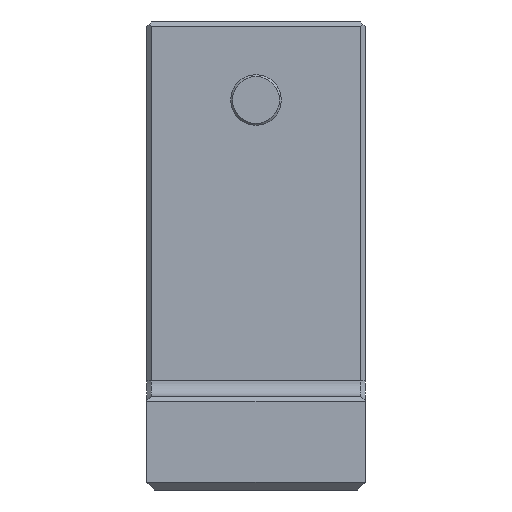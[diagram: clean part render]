
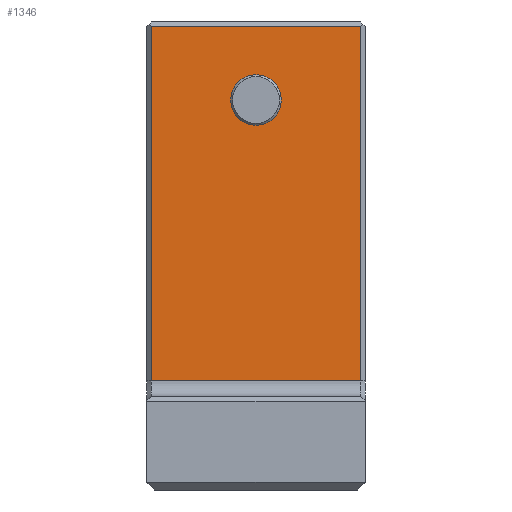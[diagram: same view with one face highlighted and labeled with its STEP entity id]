
A CAD part, front view. The second image highlights one B-rep face of the part: STEP entity #1346.
In plain terms, the highlighted planar face has unit normal (0, -1, 0).
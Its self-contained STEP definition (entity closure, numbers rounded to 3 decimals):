
#1150=CARTESIAN_POINT('',(0.3,-10.0,-9.));
#1151=VERTEX_POINT('',#1150);
#1177=CARTESIAN_POINT('',(13.7,-10.0,-9.));
#1178=VERTEX_POINT('',#1177);
#1218=CARTESIAN_POINT('',(0.3,-10.0,13.7));
#1219=VERTEX_POINT('',#1218);
#1220=CARTESIAN_POINT('',(0.3,-10.0,-9.));
#1221=DIRECTION('',(0.0,0.0,1.0));
#1222=VECTOR('',#1221,22.7);
#1223=LINE('',#1220,#1222);
#1224=EDGE_CURVE('',#1151,#1219,#1223,.T.);
#1242=CARTESIAN_POINT('',(13.7,-10.0,13.7));
#1243=VERTEX_POINT('',#1242);
#1250=CARTESIAN_POINT('',(13.7,-10.0,13.7));
#1251=DIRECTION('',(0.0,0.0,-1.0));
#1252=VECTOR('',#1251,22.7);
#1253=LINE('',#1250,#1252);
#1254=EDGE_CURVE('',#1243,#1178,#1253,.T.);
#1310=CARTESIAN_POINT('',(13.7,-10.0,-9.));
#1311=DIRECTION('',(-1.0,0.0,0.0));
#1312=VECTOR('',#1311,13.4);
#1313=LINE('',#1310,#1312);
#1314=EDGE_CURVE('',#1178,#1151,#1313,.T.);
#1319=CARTESIAN_POINT('',(0.0,-10.0,-10.));
#1320=DIRECTION('',(0.0,-1.0,0.0));
#1321=DIRECTION('',(0.0,0.0,-1.0));
#1322=AXIS2_PLACEMENT_3D('',#1319,#1320,#1321);
#1323=PLANE('',#1322);
#1324=ORIENTED_EDGE('',*,*,#1224,.F.);
#1325=ORIENTED_EDGE('',*,*,#1314,.F.);
#1326=ORIENTED_EDGE('',*,*,#1254,.F.);
#1327=CARTESIAN_POINT('',(0.3,-10.0,13.7));
#1328=DIRECTION('',(1.0,0.0,0.0));
#1329=VECTOR('',#1328,13.4);
#1330=LINE('',#1327,#1329);
#1331=EDGE_CURVE('',#1219,#1243,#1330,.T.);
#1332=ORIENTED_EDGE('',*,*,#1331,.F.);
#1333=EDGE_LOOP('',(#1324,#1325,#1326,#1332));
#1334=FACE_OUTER_BOUND('',#1333,.T.);
#1335=CARTESIAN_POINT('',(8.621,-10.,9.));
#1336=VERTEX_POINT('',#1335);
#1337=CARTESIAN_POINT('',(7.,-10.,9.));
#1338=DIRECTION('',(0.0,1.0,0.0));
#1339=DIRECTION('',(-1.0,0.0,0.0));
#1340=AXIS2_PLACEMENT_3D('',#1337,#1338,#1339);
#1341=CIRCLE('',#1340,1.621);
#1342=EDGE_CURVE('',#1336,#1336,#1341,.T.);
#1343=ORIENTED_EDGE('',*,*,#1342,.T.);
#1344=EDGE_LOOP('',(#1343));
#1345=FACE_BOUND('',#1344,.T.);
#1346=ADVANCED_FACE('',(#1334,#1345),#1323,.T.);
